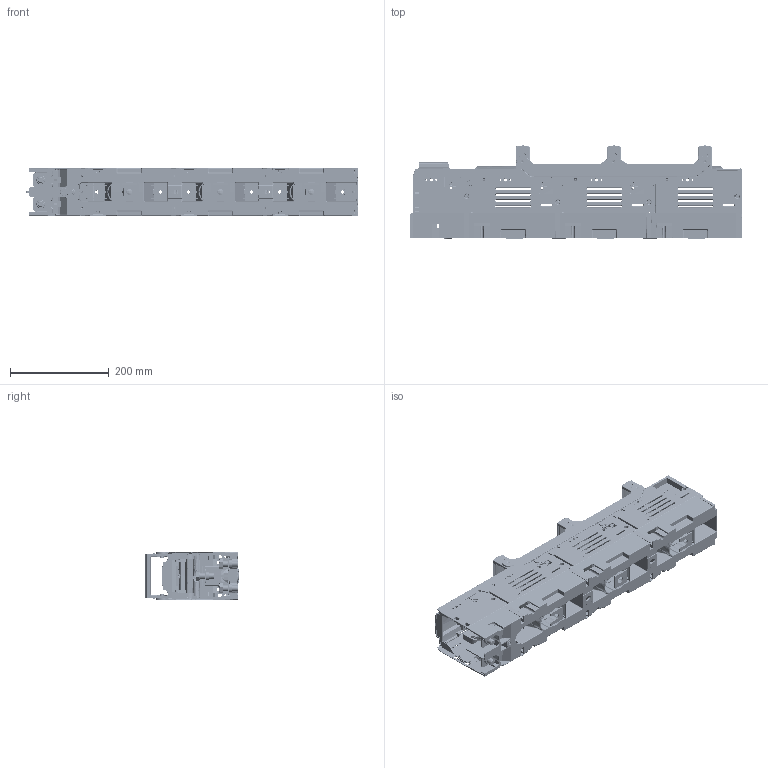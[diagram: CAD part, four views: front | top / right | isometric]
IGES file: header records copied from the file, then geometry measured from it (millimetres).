
Start section: SolidWorks IGES file using analytic representation for surfaces
Global section: file name: U:\14_RD\05_Technical_office\04_Office\Hrdinova\3D modely - IGES\Varius - FSD\FSD123-33-LM.IGS; native system: SolidWorks 2011; preprocessor: SolidWorks 2011; author: adhrja3; date: 170620.123358; units: millimetre
Bounding box: 674 x 189 x 99 mm (x, y, z)
Surface area: 1302003.1 mm2 (no closed solid volume)
Topology: 0 solids, 0 shells, 11152 faces, 89852 edges, 89622 vertices
Faces by surface type: bspline 7050, revolution 4102
